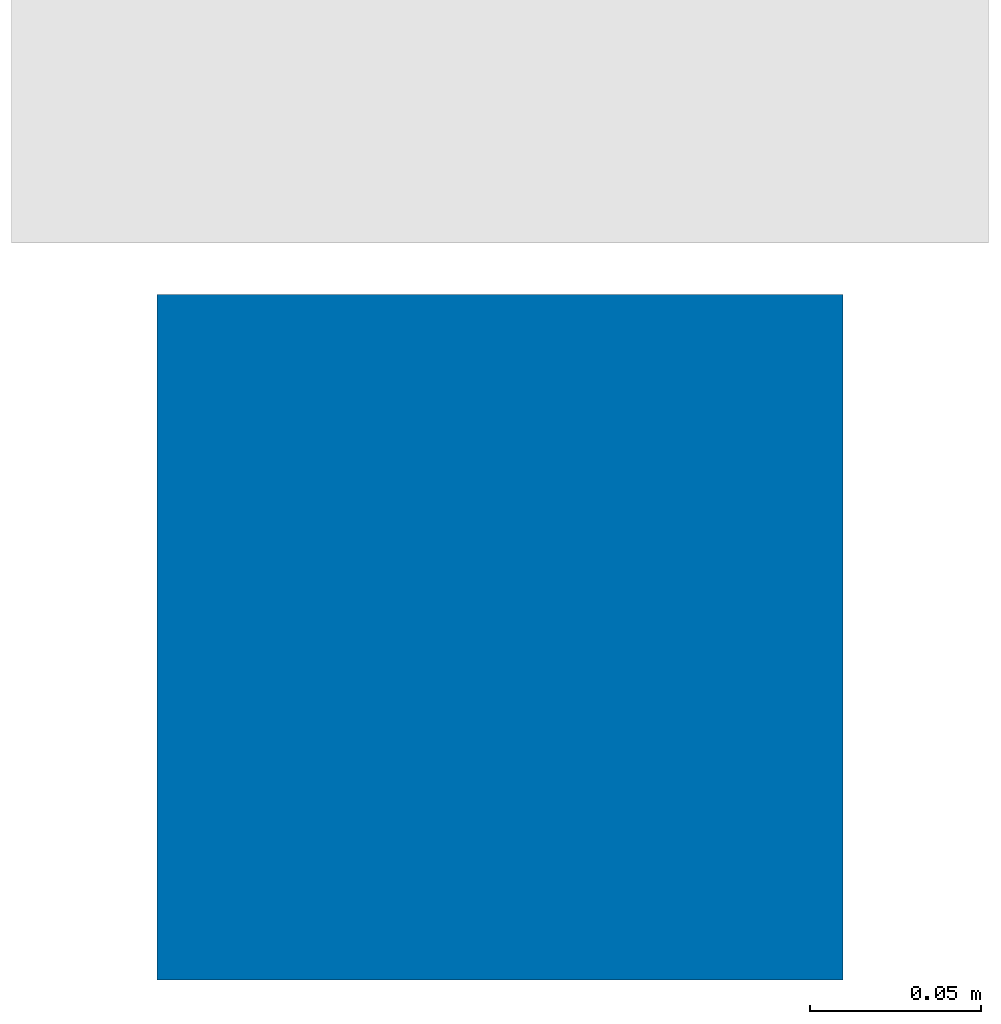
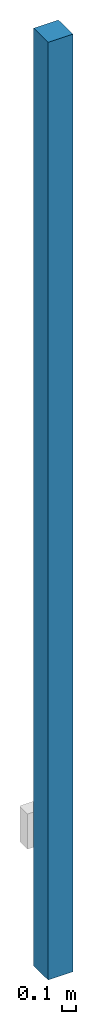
# One storey, part 1 of 2: 1 wall.
"""IFC2X3 building model written with IfcOpenShell, lengths in millimetres."""

from ifc_helpers import new_model, entity, si_unit, converted_unit, derived_unit, direction, frame, frame_2d, origin, place, context, subcontext, project, spatial, rectangle, extrude, material, layer, layer_set, layer_usage, type_object, element, save


model = new_model("IFC2X3")

# Units and contexts
model_context = context("Model", 3, precision=0.01, world=origin(), true_north=direction((6.12303176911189e-17, 1.0)))
context_of_model = context(None, 3, precision=0.01, world=origin(), true_north=direction((6.12303176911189e-17, 1.0)))
body_context = subcontext(model_context, "Body", "Model", "MODEL_VIEW")
ifc_project = project(units=[si_unit("LENGTHUNIT", "METRE", prefix="MILLI"), si_unit("AREAUNIT", "SQUARE_METRE"), si_unit("VOLUMEUNIT", "CUBIC_METRE"), converted_unit("PLANEANGLEUNIT", "DEGREE", entity("IfcRatioMeasure", 0.0174532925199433), si_unit("PLANEANGLEUNIT", "RADIAN"), dimensions=[0, 0, 0, 0, 0, 0, 0]), si_unit("MASSUNIT", "GRAM", prefix="KILO"), si_unit("TIMEUNIT", "SECOND"), si_unit("FREQUENCYUNIT", "HERTZ"), si_unit("THERMODYNAMICTEMPERATUREUNIT", "DEGREE_CELSIUS"), derived_unit("THERMALTRANSMITTANCEUNIT", [(si_unit("MASSUNIT", "GRAM", prefix="KILO"), 1), (si_unit("THERMODYNAMICTEMPERATUREUNIT", "KELVIN"), -1), (si_unit("TIMEUNIT", "SECOND"), -3)]), derived_unit("VOLUMETRICFLOWRATEUNIT", [(si_unit("LENGTHUNIT", "METRE"), 3), (si_unit("TIMEUNIT", "SECOND"), -1)]), si_unit("ELECTRICCURRENTUNIT", "AMPERE"), si_unit("ELECTRICVOLTAGEUNIT", "VOLT"), si_unit("POWERUNIT", "WATT"), si_unit("FORCEUNIT", "NEWTON", prefix="KILO"), si_unit("ILLUMINANCEUNIT", "LUX"), si_unit("LUMINOUSFLUXUNIT", "LUMEN"), si_unit("LUMINOUSINTENSITYUNIT", "CANDELA"), si_unit("PRESSUREUNIT", "PASCAL")], contexts=[model_context, context_of_model])

# Site, building, storey
site_placement = place(None, origin())
site = spatial("IfcSite", under=ifc_project, at=site_placement, Name="Default", CompositionType="ELEMENT")
building_placement = place(site_placement, origin())
building = spatial("IfcBuilding", under=site, at=building_placement, CompositionType="ELEMENT")
storey_placement = place(building_placement, origin())
storey = spatial("IfcBuildingStorey", under=building, at=storey_placement, Name="Level 1", CompositionType="ELEMENT", Elevation=0.0)

# Wall
ifc_material = material(Name="Default Wall")
ifc_layer = layer(ifc_material, 200.0)
ifc_layer_set = layer_set([ifc_layer], Name="Basic Wall:Generic - 200mm")
ifc_layer_usage = layer_usage(ifc_layer_set, "AXIS2", "NEGATIVE", 100.0)
wall_type = type_object("IfcWallType", Name="Basic Wall:Generic - 200mm", PredefinedType="STANDARD", material=ifc_layer_set)
wall_placement = place(storey_placement, frame((-18.7926216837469, -637.818050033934, 0.0)))
element("IfcWallStandardCase", 1, at=wall_placement, inside=storey, type_object=wall_type, material=ifc_layer_usage, Name="Basic Wall:Generic - 200mm", ObjectType="Basic Wall:Generic - 200mm:249", context=body_context, shape_type="SweptSolid", body=[
    extrude(rectangle(XDim=200.0, YDim=200.0, at=frame_2d((100.0, -1.4210854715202e-14), x_axis=(-1.0, 0.0))), origin(), (0.0, 0.0, 1.0), 8000.0),
])

save(model, "model.ifc")
